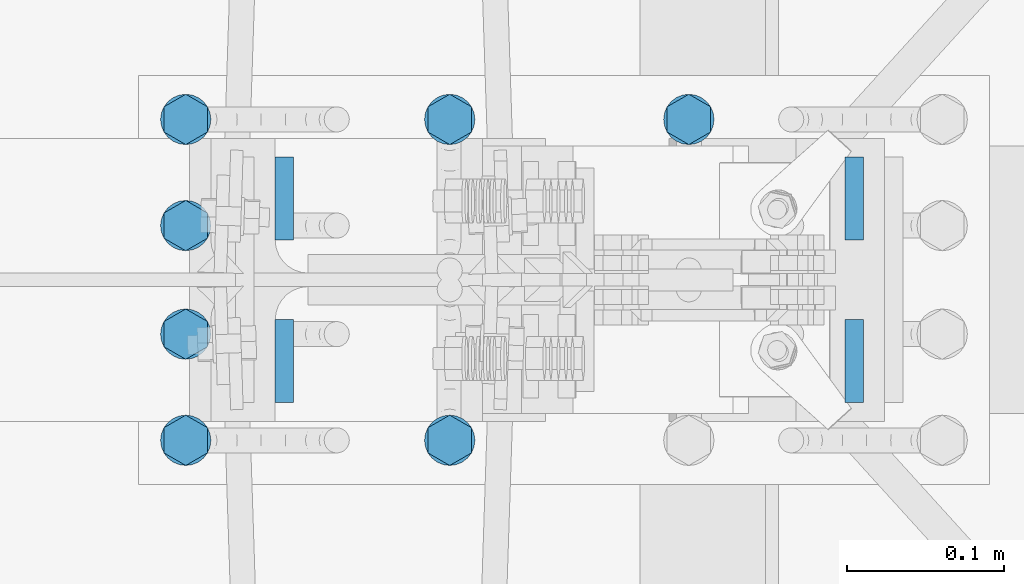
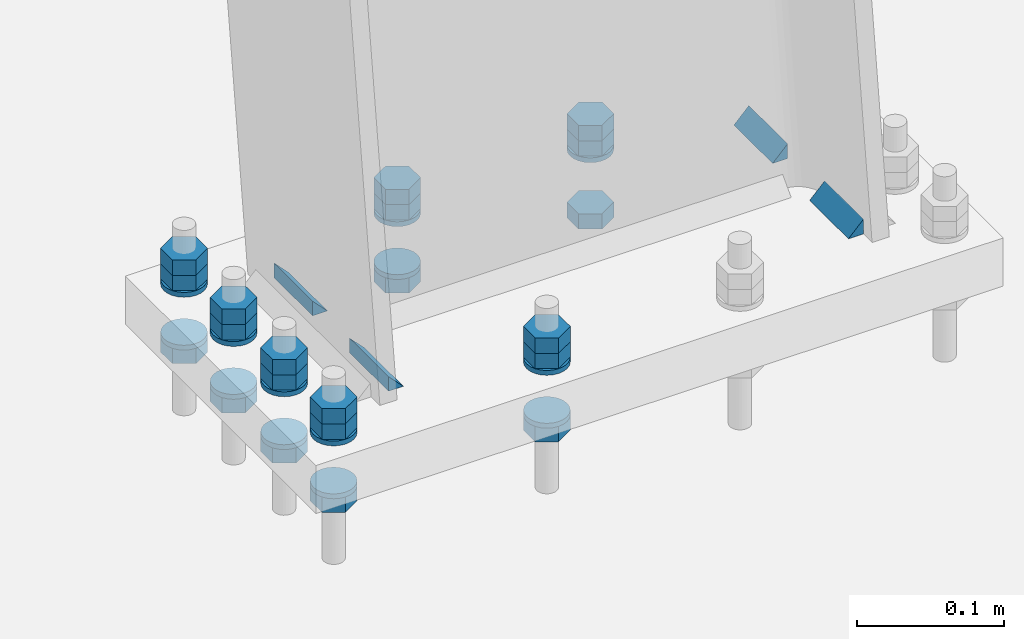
# One storey, part 44 of 72: 34 mechanical fasteners, 8 fasteners.
"""IFC4 building model written with IfcOpenShell, lengths in metres."""

from ifc_helpers import new_model, si_unit, frame, origin_with_axes, place, context, project, spatial, polyline, outline, extrude, type_object, element, save


model = new_model("IFC4")

# Units and contexts
model_context = context("Model", 3, precision=1e-05, world=origin_with_axes())
ifc_project = project(units=[si_unit("LENGTHUNIT", "METRE"), si_unit("AREAUNIT", "SQUARE_METRE"), si_unit("VOLUMEUNIT", "CUBIC_METRE"), si_unit("MASSUNIT", "GRAM", prefix="KILO"), si_unit("TIMEUNIT", "SECOND"), si_unit("PLANEANGLEUNIT", "RADIAN"), si_unit("SOLIDANGLEUNIT", "STERADIAN"), si_unit("THERMODYNAMICTEMPERATUREUNIT", "DEGREE_CELSIUS")], contexts=[model_context])

# Site, building, storey
placement_1 = place(None, origin_with_axes())
site = spatial("IfcSite", under=ifc_project, at=placement_1, Name="Italia", CompositionType="ELEMENT")
building = spatial("IfcBuilding", under=site, at=placement_1, Name="Pensilina", CompositionType="ELEMENT")
storey = spatial("IfcBuildingStorey", under=building, at=placement_1, Name="Storey 0", CompositionType="ELEMENT", Elevation=0.0)

# Fasteners
fastener_type_1 = type_object("IfcFastenerType", Name="Collegamento 0003_-198", PredefinedType="WELD")
placement_2 = place(placement_1, origin_with_axes())
fastener_1_placement = place(placement_2, origin_with_axes())
element("IfcFastener", 1, at=fastener_1_placement, inside=storey, type_object=fastener_type_1, Name="Collegamento 0003_-198", context=model_context, shape_type="SweptSolid", body=[
    extrude(outline(polyline([(0.0, 0.0, 0.0), (0.0118082, 0.0121734, 0.0), (0.0118082, 0.0, 0.0), (0.0, 0.0, 0.0)])), frame((1.10723, 10.5347, 0.103658), z_axis=(0.0, -1.0, 0.0), x_axis=(1.0, 0.0, 0.0)), (0.0, 0.0, 1.0), 0.0528002),
])
fastener_type_2 = type_object("IfcFastenerType", Name="Collegamento 0003_-198", PredefinedType="WELD")
fastener_2_placement = place(placement_2, origin_with_axes())
element("IfcFastener", 2, at=fastener_2_placement, inside=storey, type_object=fastener_type_2, Name="Collegamento 0003_-198", context=model_context, shape_type="SweptSolid", body=[
    extrude(outline(polyline([(0.0, 0.0, 0.0), (0.0118082, 0.0121734, 0.0), (0.0118082, 0.0, 0.0), (0.0, 0.0, 0.0)])), frame((0.756865, 10.4819, 0.103658), z_axis=(0.0, 1.0, 0.0), x_axis=(-1.0, 0.0, 0.0)), (0.0, 0.0, 1.0), 0.0528002),
])
fastener_type_3 = type_object("IfcFastenerType", Name="Collegamento 0003_-198", PredefinedType="WELD")
fastener_3_placement = place(placement_2, origin_with_axes())
element("IfcFastener", 3, at=fastener_3_placement, inside=storey, type_object=fastener_type_3, Name="Collegamento 0003_-198", context=model_context, shape_type="SweptSolid", body=[
    extrude(outline(polyline([(0.0, 0.0, 0.0), (0.0118082, 0.0121734, 0.0), (0.0118082, 0.0, 0.0), (0.0, 0.0, 0.0)])), frame((0.756865, 10.5853, 0.103658), z_axis=(0.0, 1.0, 0.0), x_axis=(-1.0, 0.0, 0.0)), (0.0, 0.0, 1.0), 0.0528002),
])
fastener_type_4 = type_object("IfcFastenerType", Name="Collegamento 0003_-198", PredefinedType="WELD")
fastener_4_placement = place(placement_2, origin_with_axes())
element("IfcFastener", 4, at=fastener_4_placement, inside=storey, type_object=fastener_type_4, Name="Collegamento 0003_-198", context=model_context, shape_type="SweptSolid", body=[
    extrude(outline(polyline([(0.0, 0.0, 0.0), (0.0118082, 0.0121734, 0.0), (0.0118082, 0.0, 0.0), (0.0, 0.0, 0.0)])), frame((1.10723, 10.6381, 0.103658), z_axis=(0.0, -1.0, 0.0), x_axis=(1.0, 0.0, 0.0)), (0.0, 0.0, 1.0), 0.0528002),
])
fastener_type_5 = type_object("IfcFastenerType", Name="Collegamento 0003_-198", PredefinedType="WELD")
fastener_5_placement = place(placement_2, origin_with_axes())
element("IfcFastener", 5, at=fastener_5_placement, inside=storey, type_object=fastener_type_5, Name="Collegamento 0003_-198", context=model_context, shape_type="SweptSolid", body=[
    extrude(outline(polyline([(0.0, 0.0, 0.0), (0.0118082, 0.0121734, 0.0), (0.0118082, 0.0, 0.0), (0.0, 0.0, 0.0)])), frame((1.10723, 10.5347, 0.103658), z_axis=(0.0, -1.0, 0.0), x_axis=(1.0, 0.0, 0.0)), (0.0, 0.0, 1.0), 0.0528002),
])
fastener_type_6 = type_object("IfcFastenerType", Name="Collegamento 0003_-198", PredefinedType="WELD")
fastener_6_placement = place(placement_2, origin_with_axes())
element("IfcFastener", 6, at=fastener_6_placement, inside=storey, type_object=fastener_type_6, Name="Collegamento 0003_-198", context=model_context, shape_type="SweptSolid", body=[
    extrude(outline(polyline([(0.0, 0.0, 0.0), (0.0118082, 0.0121734, 0.0), (0.0118082, 0.0, 0.0), (0.0, 0.0, 0.0)])), frame((0.756865, 10.4819, 0.103658), z_axis=(0.0, 1.0, 0.0), x_axis=(-1.0, 0.0, 0.0)), (0.0, 0.0, 1.0), 0.0528002),
])
fastener_type_7 = type_object("IfcFastenerType", Name="Collegamento 0003_-198", PredefinedType="WELD")
fastener_7_placement = place(placement_2, origin_with_axes())
element("IfcFastener", 7, at=fastener_7_placement, inside=storey, type_object=fastener_type_7, Name="Collegamento 0003_-198", context=model_context, shape_type="SweptSolid", body=[
    extrude(outline(polyline([(0.0, 0.0, 0.0), (0.0118082, 0.0121734, 0.0), (0.0118082, 0.0, 0.0), (0.0, 0.0, 0.0)])), frame((0.756865, 10.5853, 0.103658), z_axis=(0.0, 1.0, 0.0), x_axis=(-1.0, 0.0, 0.0)), (0.0, 0.0, 1.0), 0.0528002),
])
fastener_type_8 = type_object("IfcFastenerType", Name="Collegamento 0003_-198", PredefinedType="WELD")
fastener_8_placement = place(placement_2, origin_with_axes())
element("IfcFastener", 8, at=fastener_8_placement, inside=storey, type_object=fastener_type_8, Name="Collegamento 0003_-198", context=model_context, shape_type="SweptSolid", body=[
    extrude(outline(polyline([(0.0, 0.0, 0.0), (0.0118082, 0.0121734, 0.0), (0.0118082, 0.0, 0.0), (0.0, 0.0, 0.0)])), frame((1.10723, 10.6381, 0.103658), z_axis=(0.0, -1.0, 0.0), x_axis=(1.0, 0.0, 0.0)), (0.0, 0.0, 1.0), 0.0528002),
])

# Mechanical fasteners
mechanical_fastener_type_1 = type_object("IfcMechanicalFastenerType", Name="Collegamento 0003_-198", PredefinedType="BOLT")
mechanical_fastener_1_placement = place(placement_2, origin_with_axes())
element("IfcMechanicalFastener", 9, at=mechanical_fastener_1_placement, inside=storey, type_object=mechanical_fastener_type_1, Name="Collegamento 0003_-198", NominalDiameter=0.0159997, context=model_context, shape_type="SweptSolid", body=[
    extrude(outline(polyline([(0.0, 0.0, 0.0), (0.0159998, 0.0, 0.0), (0.0240002, -0.0138564, 0.0), (0.0159998, -0.0277128, 0.0), (0.0, -0.0277128, 0.0), (-0.00799942, -0.0138564, 0.0), (0.0, 0.0, 0.0)])), frame((0.674373, 10.654, 0.107708), z_axis=(0.0, 0.0, 1.0), x_axis=(0.0, 1.0, 0.0)), (0.0, 0.0, 1.0), 0.0128),
])
mechanical_fastener_type_2 = type_object("IfcMechanicalFastenerType", Name="Collegamento 0003_-198", PredefinedType="BOLT")
mechanical_fastener_2_placement = place(placement_2, origin_with_axes())
element("IfcMechanicalFastener", 10, at=mechanical_fastener_2_placement, inside=storey, type_object=mechanical_fastener_type_2, Name="Collegamento 0003_-198", NominalDiameter=0.0159997, context=model_context, shape_type="SweptSolid", body=[
    extrude(outline(polyline([(0.0, 0.0, 0.0), (0.0159998, 0.0, 0.0), (0.0240002, -0.0138564, 0.0), (0.0159998, -0.0277128, 0.0), (0.0, -0.0277128, 0.0), (-0.00799942, -0.0138564, 0.0), (0.0, 0.0, 0.0)])), frame((0.674373, 10.654, 0.120508), z_axis=(0.0, 0.0, 1.0), x_axis=(0.0, 1.0, 0.0)), (0.0, 0.0, 1.0), 0.0128),
])
mechanical_fastener_type_3 = type_object("IfcMechanicalFastenerType", Name="Collegamento 0003_-198", PredefinedType="BOLT")
mechanical_fastener_3_placement = place(placement_2, origin_with_axes())
element("IfcMechanicalFastener", 11, at=mechanical_fastener_3_placement, inside=storey, type_object=mechanical_fastener_type_3, Name="Collegamento 0003_-198", NominalDiameter=0.0159997, context=model_context, shape_type="SweptSolid", body=[
    extrude(outline(polyline([(0.0, 0.0, 0.0), (0.0159998, 0.0, 0.0), (0.0240002, -0.0138564, 0.0), (0.0159998, -0.0277128, 0.0), (0.0, -0.0277128, 0.0), (-0.00799942, -0.0138564, 0.0), (0.0, 0.0, 0.0)])), frame((0.674373, 10.654, 0.0469081), z_axis=(0.0, 0.0, 1.0), x_axis=(0.0, 1.0, 0.0)), (0.0, 0.0, 1.0), 0.0128),
])
mechanical_fastener_type_4 = type_object("IfcMechanicalFastenerType", Name="Collegamento 0003_-198", PredefinedType="BOLT")
mechanical_fastener_4_placement = place(placement_2, origin_with_axes())
element("IfcMechanicalFastener", 12, at=mechanical_fastener_4_placement, inside=storey, type_object=mechanical_fastener_type_4, Name="Collegamento 0003_-198", NominalDiameter=0.032, context=model_context, shape_type="SweptSolid", body=[
    extrude(outline(polyline([(0.0, 0.0, 0.0), (-0.000544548, -0.00414109, 0.0), (-0.00214386, -0.00800002, 0.0), (-0.00468636, -0.0113137, 0.0), (-0.00799942, -0.0138564, 0.0), (-0.0118589, -0.0154548, 0.0), (-0.0159998, -0.016, 0.0), (-0.0201406, -0.0154548, 0.0), (-0.0240002, -0.0138564, 0.0), (-0.0273132, -0.0113137, 0.0), (-0.0298557, -0.00800002, 0.0), (-0.031455, -0.00414109, 0.0), (-0.0319996, 0.0, 0.0), (-0.031455, 0.00414109, 0.0), (-0.0298557, 0.00800002, 0.0), (-0.0273132, 0.0113137, 0.0), (-0.0240002, 0.0138564, 0.0), (-0.0201406, 0.0154548, 0.0), (-0.0159998, 0.016, 0.0), (-0.0118589, 0.0154548, 0.0), (-0.00799942, 0.0138564, 0.0), (-0.00468636, 0.0113137, 0.0), (-0.00214386, 0.00800002, 0.0), (-0.000544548, 0.00414109, 0.0), (0.0, 0.0, 0.0)])), frame((0.68823, 10.678, 0.103708), z_axis=(0.0, 0.0, 1.0), x_axis=(0.0, 1.0, 0.0)), (0.0, 0.0, 1.0), 0.004),
])
mechanical_fastener_type_5 = type_object("IfcMechanicalFastenerType", Name="Collegamento 0003_-198", PredefinedType="BOLT")
mechanical_fastener_5_placement = place(placement_2, origin_with_axes())
element("IfcMechanicalFastener", 13, at=mechanical_fastener_5_placement, inside=storey, type_object=mechanical_fastener_type_5, Name="Collegamento 0003_-198", NominalDiameter=0.032, context=model_context, shape_type="SweptSolid", body=[
    extrude(outline(polyline([(0.0, 0.0, 0.0), (-0.000544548, -0.00414109, 0.0), (-0.00214386, -0.00800002, 0.0), (-0.00468636, -0.0113137, 0.0), (-0.00799942, -0.0138564, 0.0), (-0.0118589, -0.0154548, 0.0), (-0.0159998, -0.016, 0.0), (-0.0201406, -0.0154548, 0.0), (-0.0240002, -0.0138564, 0.0), (-0.0273132, -0.0113137, 0.0), (-0.0298557, -0.00800002, 0.0), (-0.031455, -0.00414109, 0.0), (-0.0319996, 0.0, 0.0), (-0.031455, 0.00414109, 0.0), (-0.0298557, 0.00800002, 0.0), (-0.0273132, 0.0113137, 0.0), (-0.0240002, 0.0138564, 0.0), (-0.0201406, 0.0154548, 0.0), (-0.0159998, 0.016, 0.0), (-0.0118589, 0.0154548, 0.0), (-0.00799942, 0.0138564, 0.0), (-0.00468636, 0.0113137, 0.0), (-0.00214386, 0.00800002, 0.0), (-0.000544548, 0.00414109, 0.0), (0.0, 0.0, 0.0)])), frame((0.68823, 10.678, 0.0597081), z_axis=(0.0, 0.0, 1.0), x_axis=(0.0, 1.0, 0.0)), (0.0, 0.0, 1.0), 0.004),
])
mechanical_fastener_type_6 = type_object("IfcMechanicalFastenerType", Name="Collegamento 0003_-198", PredefinedType="BOLT")
mechanical_fastener_6_placement = place(placement_2, origin_with_axes())
element("IfcMechanicalFastener", 14, at=mechanical_fastener_6_placement, inside=storey, type_object=mechanical_fastener_type_6, Name="Collegamento 0003_-198", NominalDiameter=0.0159997, context=model_context, shape_type="SweptSolid", body=[
    extrude(outline(polyline([(0.0, 0.0, 0.0), (0.0159998, 0.0, 0.0), (0.0240002, -0.0138564, 0.0), (0.0159998, -0.0277128, 0.0), (0.0, -0.0277128, 0.0), (-0.00799942, -0.0138564, 0.0), (0.0, 0.0, 0.0)])), frame((0.674373, 10.5865, 0.107708), z_axis=(0.0, 0.0, 1.0), x_axis=(0.0, 1.0, 0.0)), (0.0, 0.0, 1.0), 0.0128),
])
mechanical_fastener_type_7 = type_object("IfcMechanicalFastenerType", Name="Collegamento 0003_-198", PredefinedType="BOLT")
mechanical_fastener_7_placement = place(placement_2, origin_with_axes())
element("IfcMechanicalFastener", 15, at=mechanical_fastener_7_placement, inside=storey, type_object=mechanical_fastener_type_7, Name="Collegamento 0003_-198", NominalDiameter=0.0159997, context=model_context, shape_type="SweptSolid", body=[
    extrude(outline(polyline([(0.0, 0.0, 0.0), (0.0159998, 0.0, 0.0), (0.0240002, -0.0138564, 0.0), (0.0159998, -0.0277128, 0.0), (0.0, -0.0277128, 0.0), (-0.00799942, -0.0138564, 0.0), (0.0, 0.0, 0.0)])), frame((0.674373, 10.5865, 0.120508), z_axis=(0.0, 0.0, 1.0), x_axis=(0.0, 1.0, 0.0)), (0.0, 0.0, 1.0), 0.0128),
])
mechanical_fastener_type_8 = type_object("IfcMechanicalFastenerType", Name="Collegamento 0003_-198", PredefinedType="BOLT")
mechanical_fastener_8_placement = place(placement_2, origin_with_axes())
element("IfcMechanicalFastener", 16, at=mechanical_fastener_8_placement, inside=storey, type_object=mechanical_fastener_type_8, Name="Collegamento 0003_-198", NominalDiameter=0.0159997, context=model_context, shape_type="SweptSolid", body=[
    extrude(outline(polyline([(0.0, 0.0, 0.0), (0.0159998, 0.0, 0.0), (0.0240002, -0.0138564, 0.0), (0.0159998, -0.0277128, 0.0), (0.0, -0.0277128, 0.0), (-0.00799942, -0.0138564, 0.0), (0.0, 0.0, 0.0)])), frame((0.674373, 10.5865, 0.0469081), z_axis=(0.0, 0.0, 1.0), x_axis=(0.0, 1.0, 0.0)), (0.0, 0.0, 1.0), 0.0128),
])
mechanical_fastener_type_9 = type_object("IfcMechanicalFastenerType", Name="Collegamento 0003_-198", PredefinedType="BOLT")
mechanical_fastener_9_placement = place(placement_2, origin_with_axes())
element("IfcMechanicalFastener", 17, at=mechanical_fastener_9_placement, inside=storey, type_object=mechanical_fastener_type_9, Name="Collegamento 0003_-198", NominalDiameter=0.032, context=model_context, shape_type="SweptSolid", body=[
    extrude(outline(polyline([(0.0, 0.0, 0.0), (-0.000544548, -0.00414109, 0.0), (-0.00214386, -0.00800002, 0.0), (-0.00468636, -0.0113137, 0.0), (-0.00799942, -0.0138564, 0.0), (-0.0118589, -0.0154548, 0.0), (-0.0159998, -0.016, 0.0), (-0.0201406, -0.0154548, 0.0), (-0.0240002, -0.0138564, 0.0), (-0.0273132, -0.0113137, 0.0), (-0.0298557, -0.00800002, 0.0), (-0.031455, -0.00414109, 0.0), (-0.0319996, 0.0, 0.0), (-0.031455, 0.00414109, 0.0), (-0.0298557, 0.00800002, 0.0), (-0.0273132, 0.0113137, 0.0), (-0.0240002, 0.0138564, 0.0), (-0.0201406, 0.0154548, 0.0), (-0.0159998, 0.016, 0.0), (-0.0118589, 0.0154548, 0.0), (-0.00799942, 0.0138564, 0.0), (-0.00468636, 0.0113137, 0.0), (-0.00214386, 0.00800002, 0.0), (-0.000544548, 0.00414109, 0.0), (0.0, 0.0, 0.0)])), frame((0.68823, 10.6105, 0.103708), z_axis=(0.0, 0.0, 1.0), x_axis=(0.0, 1.0, 0.0)), (0.0, 0.0, 1.0), 0.004),
])
mechanical_fastener_type_10 = type_object("IfcMechanicalFastenerType", Name="Collegamento 0003_-198", PredefinedType="BOLT")
mechanical_fastener_10_placement = place(placement_2, origin_with_axes())
element("IfcMechanicalFastener", 18, at=mechanical_fastener_10_placement, inside=storey, type_object=mechanical_fastener_type_10, Name="Collegamento 0003_-198", NominalDiameter=0.032, context=model_context, shape_type="SweptSolid", body=[
    extrude(outline(polyline([(0.0, 0.0, 0.0), (-0.000544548, -0.00414109, 0.0), (-0.00214386, -0.00800002, 0.0), (-0.00468636, -0.0113137, 0.0), (-0.00799942, -0.0138564, 0.0), (-0.0118589, -0.0154548, 0.0), (-0.0159998, -0.016, 0.0), (-0.0201406, -0.0154548, 0.0), (-0.0240002, -0.0138564, 0.0), (-0.0273132, -0.0113137, 0.0), (-0.0298557, -0.00800002, 0.0), (-0.031455, -0.00414109, 0.0), (-0.0319996, 0.0, 0.0), (-0.031455, 0.00414109, 0.0), (-0.0298557, 0.00800002, 0.0), (-0.0273132, 0.0113137, 0.0), (-0.0240002, 0.0138564, 0.0), (-0.0201406, 0.0154548, 0.0), (-0.0159998, 0.016, 0.0), (-0.0118589, 0.0154548, 0.0), (-0.00799942, 0.0138564, 0.0), (-0.00468636, 0.0113137, 0.0), (-0.00214386, 0.00800002, 0.0), (-0.000544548, 0.00414109, 0.0), (0.0, 0.0, 0.0)])), frame((0.68823, 10.6105, 0.0597081), z_axis=(0.0, 0.0, 1.0), x_axis=(0.0, 1.0, 0.0)), (0.0, 0.0, 1.0), 0.004),
])
mechanical_fastener_type_11 = type_object("IfcMechanicalFastenerType", Name="Collegamento 0003_-198", PredefinedType="BOLT")
mechanical_fastener_11_placement = place(placement_2, origin_with_axes())
element("IfcMechanicalFastener", 19, at=mechanical_fastener_11_placement, inside=storey, type_object=mechanical_fastener_type_11, Name="Collegamento 0003_-198", NominalDiameter=0.0159997, context=model_context, shape_type="SweptSolid", body=[
    extrude(outline(polyline([(0.0, 0.0, 0.0), (0.0159998, 0.0, 0.0), (0.0239992, -0.0138564, 0.0), (0.0159998, -0.0277128, 0.0), (0.0, -0.0277128, 0.0), (-0.00800037, -0.0138564, 0.0), (0.0, 0.0, 0.0)])), frame((0.674373, 10.5175, 0.107708), z_axis=(0.0, 0.0, 1.0), x_axis=(0.0, 1.0, 0.0)), (0.0, 0.0, 1.0), 0.0128),
])
mechanical_fastener_type_12 = type_object("IfcMechanicalFastenerType", Name="Collegamento 0003_-198", PredefinedType="BOLT")
mechanical_fastener_12_placement = place(placement_2, origin_with_axes())
element("IfcMechanicalFastener", 20, at=mechanical_fastener_12_placement, inside=storey, type_object=mechanical_fastener_type_12, Name="Collegamento 0003_-198", NominalDiameter=0.0159997, context=model_context, shape_type="SweptSolid", body=[
    extrude(outline(polyline([(0.0, 0.0, 0.0), (0.0159998, 0.0, 0.0), (0.0239992, -0.0138564, 0.0), (0.0159998, -0.0277128, 0.0), (0.0, -0.0277128, 0.0), (-0.00800037, -0.0138564, 0.0), (0.0, 0.0, 0.0)])), frame((0.674373, 10.5175, 0.120508), z_axis=(0.0, 0.0, 1.0), x_axis=(0.0, 1.0, 0.0)), (0.0, 0.0, 1.0), 0.0128),
])
mechanical_fastener_type_13 = type_object("IfcMechanicalFastenerType", Name="Collegamento 0003_-198", PredefinedType="BOLT")
mechanical_fastener_13_placement = place(placement_2, origin_with_axes())
element("IfcMechanicalFastener", 21, at=mechanical_fastener_13_placement, inside=storey, type_object=mechanical_fastener_type_13, Name="Collegamento 0003_-198", NominalDiameter=0.0159997, context=model_context, shape_type="SweptSolid", body=[
    extrude(outline(polyline([(0.0, 0.0, 0.0), (0.0159998, 0.0, 0.0), (0.0239992, -0.0138564, 0.0), (0.0159998, -0.0277128, 0.0), (0.0, -0.0277128, 0.0), (-0.00800037, -0.0138564, 0.0), (0.0, 0.0, 0.0)])), frame((0.674373, 10.5175, 0.0469081), z_axis=(0.0, 0.0, 1.0), x_axis=(0.0, 1.0, 0.0)), (0.0, 0.0, 1.0), 0.0128),
])
mechanical_fastener_type_14 = type_object("IfcMechanicalFastenerType", Name="Collegamento 0003_-198", PredefinedType="BOLT")
mechanical_fastener_14_placement = place(placement_2, origin_with_axes())
element("IfcMechanicalFastener", 22, at=mechanical_fastener_14_placement, inside=storey, type_object=mechanical_fastener_type_14, Name="Collegamento 0003_-198", NominalDiameter=0.032, context=model_context, shape_type="SweptSolid", body=[
    extrude(outline(polyline([(0.0, 0.0, 0.0), (-0.000544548, -0.00414109, 0.0), (-0.00214386, -0.00800002, 0.0), (-0.00468636, -0.0113137, 0.0), (-0.00799942, -0.0138564, 0.0), (-0.0118589, -0.0154548, 0.0), (-0.0159998, -0.016, 0.0), (-0.0201406, -0.0154548, 0.0), (-0.0240002, -0.0138564, 0.0), (-0.0273132, -0.0113137, 0.0), (-0.0298557, -0.00800002, 0.0), (-0.031455, -0.00414109, 0.0), (-0.0319996, 0.0, 0.0), (-0.031455, 0.00414109, 0.0), (-0.0298557, 0.00800002, 0.0), (-0.0273132, 0.0113137, 0.0), (-0.0240002, 0.0138564, 0.0), (-0.0201406, 0.0154548, 0.0), (-0.0159998, 0.016, 0.0), (-0.0118589, 0.0154548, 0.0), (-0.00799942, 0.0138564, 0.0), (-0.00468636, 0.0113137, 0.0), (-0.00214386, 0.00800002, 0.0), (-0.000544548, 0.00414109, 0.0), (0.0, 0.0, 0.0)])), frame((0.68823, 10.5415, 0.103708), z_axis=(0.0, 0.0, 1.0), x_axis=(0.0, 1.0, 0.0)), (0.0, 0.0, 1.0), 0.004),
])
mechanical_fastener_type_15 = type_object("IfcMechanicalFastenerType", Name="Collegamento 0003_-198", PredefinedType="BOLT")
mechanical_fastener_15_placement = place(placement_2, origin_with_axes())
element("IfcMechanicalFastener", 23, at=mechanical_fastener_15_placement, inside=storey, type_object=mechanical_fastener_type_15, Name="Collegamento 0003_-198", NominalDiameter=0.032, context=model_context, shape_type="SweptSolid", body=[
    extrude(outline(polyline([(0.0, 0.0, 0.0), (-0.000544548, -0.00414109, 0.0), (-0.00214386, -0.00800002, 0.0), (-0.00468636, -0.0113137, 0.0), (-0.00799942, -0.0138564, 0.0), (-0.0118589, -0.0154548, 0.0), (-0.0159998, -0.016, 0.0), (-0.0201406, -0.0154548, 0.0), (-0.0240002, -0.0138564, 0.0), (-0.0273132, -0.0113137, 0.0), (-0.0298557, -0.00800002, 0.0), (-0.031455, -0.00414109, 0.0), (-0.0319996, 0.0, 0.0), (-0.031455, 0.00414109, 0.0), (-0.0298557, 0.00800002, 0.0), (-0.0273132, 0.0113137, 0.0), (-0.0240002, 0.0138564, 0.0), (-0.0201406, 0.0154548, 0.0), (-0.0159998, 0.016, 0.0), (-0.0118589, 0.0154548, 0.0), (-0.00799942, 0.0138564, 0.0), (-0.00468636, 0.0113137, 0.0), (-0.00214386, 0.00800002, 0.0), (-0.000544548, 0.00414109, 0.0), (0.0, 0.0, 0.0)])), frame((0.68823, 10.5415, 0.0597081), z_axis=(0.0, 0.0, 1.0), x_axis=(0.0, 1.0, 0.0)), (0.0, 0.0, 1.0), 0.004),
])
mechanical_fastener_type_16 = type_object("IfcMechanicalFastenerType", Name="Collegamento 0003_-198", PredefinedType="BOLT")
mechanical_fastener_16_placement = place(placement_2, origin_with_axes())
element("IfcMechanicalFastener", 24, at=mechanical_fastener_16_placement, inside=storey, type_object=mechanical_fastener_type_16, Name="Collegamento 0003_-198", NominalDiameter=0.0159997, context=model_context, shape_type="SweptSolid", body=[
    extrude(outline(polyline([(0.0, 0.0, 0.0), (0.0159998, 0.0, 0.0), (0.0239992, -0.0138564, 0.0), (0.0159998, -0.0277128, 0.0), (0.0, -0.0277128, 0.0), (-0.00800037, -0.0138564, 0.0), (0.0, 0.0, 0.0)])), frame((0.674373, 10.45, 0.107708), z_axis=(0.0, 0.0, 1.0), x_axis=(0.0, 1.0, 0.0)), (0.0, 0.0, 1.0), 0.0128),
])
mechanical_fastener_type_17 = type_object("IfcMechanicalFastenerType", Name="Collegamento 0003_-198", PredefinedType="BOLT")
mechanical_fastener_17_placement = place(placement_2, origin_with_axes())
element("IfcMechanicalFastener", 25, at=mechanical_fastener_17_placement, inside=storey, type_object=mechanical_fastener_type_17, Name="Collegamento 0003_-198", NominalDiameter=0.0159997, context=model_context, shape_type="SweptSolid", body=[
    extrude(outline(polyline([(0.0, 0.0, 0.0), (0.0159998, 0.0, 0.0), (0.0239992, -0.0138564, 0.0), (0.0159998, -0.0277128, 0.0), (0.0, -0.0277128, 0.0), (-0.00800037, -0.0138564, 0.0), (0.0, 0.0, 0.0)])), frame((0.674373, 10.45, 0.120508), z_axis=(0.0, 0.0, 1.0), x_axis=(0.0, 1.0, 0.0)), (0.0, 0.0, 1.0), 0.0128),
])
mechanical_fastener_type_18 = type_object("IfcMechanicalFastenerType", Name="Collegamento 0003_-198", PredefinedType="BOLT")
mechanical_fastener_18_placement = place(placement_2, origin_with_axes())
element("IfcMechanicalFastener", 26, at=mechanical_fastener_18_placement, inside=storey, type_object=mechanical_fastener_type_18, Name="Collegamento 0003_-198", NominalDiameter=0.0159997, context=model_context, shape_type="SweptSolid", body=[
    extrude(outline(polyline([(0.0, 0.0, 0.0), (0.0159998, 0.0, 0.0), (0.0239992, -0.0138564, 0.0), (0.0159998, -0.0277128, 0.0), (0.0, -0.0277128, 0.0), (-0.00800037, -0.0138564, 0.0), (0.0, 0.0, 0.0)])), frame((0.674373, 10.45, 0.0469081), z_axis=(0.0, 0.0, 1.0), x_axis=(0.0, 1.0, 0.0)), (0.0, 0.0, 1.0), 0.0128),
])
mechanical_fastener_type_19 = type_object("IfcMechanicalFastenerType", Name="Collegamento 0003_-198", PredefinedType="BOLT")
mechanical_fastener_19_placement = place(placement_2, origin_with_axes())
element("IfcMechanicalFastener", 27, at=mechanical_fastener_19_placement, inside=storey, type_object=mechanical_fastener_type_19, Name="Collegamento 0003_-198", NominalDiameter=0.032, context=model_context, shape_type="SweptSolid", body=[
    extrude(outline(polyline([(0.0, 0.0, 0.0), (-0.000544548, -0.00414109, 0.0), (-0.00214386, -0.00800002, 0.0), (-0.00468636, -0.0113137, 0.0), (-0.00799942, -0.0138564, 0.0), (-0.0118589, -0.0154548, 0.0), (-0.0159998, -0.016, 0.0), (-0.0201406, -0.0154548, 0.0), (-0.0240002, -0.0138564, 0.0), (-0.0273132, -0.0113137, 0.0), (-0.0298557, -0.00800002, 0.0), (-0.031455, -0.00414109, 0.0), (-0.0319996, 0.0, 0.0), (-0.031455, 0.00414109, 0.0), (-0.0298557, 0.00800002, 0.0), (-0.0273132, 0.0113137, 0.0), (-0.0240002, 0.0138564, 0.0), (-0.0201406, 0.0154548, 0.0), (-0.0159998, 0.016, 0.0), (-0.0118589, 0.0154548, 0.0), (-0.00799942, 0.0138564, 0.0), (-0.00468636, 0.0113137, 0.0), (-0.00214386, 0.00800002, 0.0), (-0.000544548, 0.00414109, 0.0), (0.0, 0.0, 0.0)])), frame((0.68823, 10.474, 0.103708), z_axis=(0.0, 0.0, 1.0), x_axis=(0.0, 1.0, 0.0)), (0.0, 0.0, 1.0), 0.004),
])
mechanical_fastener_type_20 = type_object("IfcMechanicalFastenerType", Name="Collegamento 0003_-198", PredefinedType="BOLT")
mechanical_fastener_20_placement = place(placement_2, origin_with_axes())
element("IfcMechanicalFastener", 28, at=mechanical_fastener_20_placement, inside=storey, type_object=mechanical_fastener_type_20, Name="Collegamento 0003_-198", NominalDiameter=0.032, context=model_context, shape_type="SweptSolid", body=[
    extrude(outline(polyline([(0.0, 0.0, 0.0), (-0.000544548, -0.00414109, 0.0), (-0.00214386, -0.00800002, 0.0), (-0.00468636, -0.0113137, 0.0), (-0.00799942, -0.0138564, 0.0), (-0.0118589, -0.0154548, 0.0), (-0.0159998, -0.016, 0.0), (-0.0201406, -0.0154548, 0.0), (-0.0240002, -0.0138564, 0.0), (-0.0273132, -0.0113137, 0.0), (-0.0298557, -0.00800002, 0.0), (-0.031455, -0.00414109, 0.0), (-0.0319996, 0.0, 0.0), (-0.031455, 0.00414109, 0.0), (-0.0298557, 0.00800002, 0.0), (-0.0273132, 0.0113137, 0.0), (-0.0240002, 0.0138564, 0.0), (-0.0201406, 0.0154548, 0.0), (-0.0159998, 0.016, 0.0), (-0.0118589, 0.0154548, 0.0), (-0.00799942, 0.0138564, 0.0), (-0.00468636, 0.0113137, 0.0), (-0.00214386, 0.00800002, 0.0), (-0.000544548, 0.00414109, 0.0), (0.0, 0.0, 0.0)])), frame((0.68823, 10.474, 0.0597081), z_axis=(0.0, 0.0, 1.0), x_axis=(0.0, 1.0, 0.0)), (0.0, 0.0, 1.0), 0.004),
])
mechanical_fastener_type_21 = type_object("IfcMechanicalFastenerType", Name="Collegamento 0003_-198", PredefinedType="BOLT")
mechanical_fastener_21_placement = place(placement_2, origin_with_axes())
element("IfcMechanicalFastener", 29, at=mechanical_fastener_21_placement, inside=storey, type_object=mechanical_fastener_type_21, Name="Collegamento 0003_-198", NominalDiameter=0.0159997, context=model_context, shape_type="SweptSolid", body=[
    extrude(outline(polyline([(0.0, 0.0, 0.0), (0.0159998, 0.0, 0.0), (0.0240002, -0.0138564, 0.0), (0.0159998, -0.0277128, 0.0), (0.0, -0.0277128, 0.0), (-0.00799942, -0.0138564, 0.0), (0.0, 0.0, 0.0)])), frame((0.84219, 10.654, 0.107708), z_axis=(0.0, 0.0, 1.0), x_axis=(0.0, 1.0, 0.0)), (0.0, 0.0, 1.0), 0.0128),
])
mechanical_fastener_type_22 = type_object("IfcMechanicalFastenerType", Name="Collegamento 0003_-198", PredefinedType="BOLT")
mechanical_fastener_22_placement = place(placement_2, origin_with_axes())
element("IfcMechanicalFastener", 30, at=mechanical_fastener_22_placement, inside=storey, type_object=mechanical_fastener_type_22, Name="Collegamento 0003_-198", NominalDiameter=0.0159997, context=model_context, shape_type="SweptSolid", body=[
    extrude(outline(polyline([(0.0, 0.0, 0.0), (0.0159998, 0.0, 0.0), (0.0240002, -0.0138564, 0.0), (0.0159998, -0.0277128, 0.0), (0.0, -0.0277128, 0.0), (-0.00799942, -0.0138564, 0.0), (0.0, 0.0, 0.0)])), frame((0.84219, 10.654, 0.120508), z_axis=(0.0, 0.0, 1.0), x_axis=(0.0, 1.0, 0.0)), (0.0, 0.0, 1.0), 0.0128),
])
mechanical_fastener_type_23 = type_object("IfcMechanicalFastenerType", Name="Collegamento 0003_-198", PredefinedType="BOLT")
mechanical_fastener_23_placement = place(placement_2, origin_with_axes())
element("IfcMechanicalFastener", 31, at=mechanical_fastener_23_placement, inside=storey, type_object=mechanical_fastener_type_23, Name="Collegamento 0003_-198", NominalDiameter=0.0159997, context=model_context, shape_type="SweptSolid", body=[
    extrude(outline(polyline([(0.0, 0.0, 0.0), (0.0159998, 0.0, 0.0), (0.0240002, -0.0138564, 0.0), (0.0159998, -0.0277128, 0.0), (0.0, -0.0277128, 0.0), (-0.00799942, -0.0138564, 0.0), (0.0, 0.0, 0.0)])), frame((0.84219, 10.654, 0.0469081), z_axis=(0.0, 0.0, 1.0), x_axis=(0.0, 1.0, 0.0)), (0.0, 0.0, 1.0), 0.0128),
])
mechanical_fastener_type_24 = type_object("IfcMechanicalFastenerType", Name="Collegamento 0003_-198", PredefinedType="BOLT")
mechanical_fastener_24_placement = place(placement_2, origin_with_axes())
element("IfcMechanicalFastener", 32, at=mechanical_fastener_24_placement, inside=storey, type_object=mechanical_fastener_type_24, Name="Collegamento 0003_-198", NominalDiameter=0.032, context=model_context, shape_type="SweptSolid", body=[
    extrude(outline(polyline([(0.0, 0.0, 0.0), (-0.000544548, -0.00414109, 0.0), (-0.00214386, -0.00800002, 0.0), (-0.00468636, -0.0113137, 0.0), (-0.00799942, -0.0138564, 0.0), (-0.0118589, -0.0154548, 0.0), (-0.0159998, -0.016, 0.0), (-0.0201406, -0.0154548, 0.0), (-0.0240002, -0.0138564, 0.0), (-0.0273132, -0.0113137, 0.0), (-0.0298557, -0.00800002, 0.0), (-0.031455, -0.00414109, 0.0), (-0.0319996, 0.0, 0.0), (-0.031455, 0.00414109, 0.0), (-0.0298557, 0.00800002, 0.0), (-0.0273132, 0.0113137, 0.0), (-0.0240002, 0.0138564, 0.0), (-0.0201406, 0.0154548, 0.0), (-0.0159998, 0.016, 0.0), (-0.0118589, 0.0154548, 0.0), (-0.00799942, 0.0138564, 0.0), (-0.00468636, 0.0113137, 0.0), (-0.00214386, 0.00800002, 0.0), (-0.000544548, 0.00414109, 0.0), (0.0, 0.0, 0.0)])), frame((0.856047, 10.678, 0.103708), z_axis=(0.0, 0.0, 1.0), x_axis=(0.0, 1.0, 0.0)), (0.0, 0.0, 1.0), 0.004),
])
mechanical_fastener_type_25 = type_object("IfcMechanicalFastenerType", Name="Collegamento 0003_-198", PredefinedType="BOLT")
mechanical_fastener_25_placement = place(placement_2, origin_with_axes())
element("IfcMechanicalFastener", 33, at=mechanical_fastener_25_placement, inside=storey, type_object=mechanical_fastener_type_25, Name="Collegamento 0003_-198", NominalDiameter=0.032, context=model_context, shape_type="SweptSolid", body=[
    extrude(outline(polyline([(0.0, 0.0, 0.0), (-0.000544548, -0.00414109, 0.0), (-0.00214386, -0.00800002, 0.0), (-0.00468636, -0.0113137, 0.0), (-0.00799942, -0.0138564, 0.0), (-0.0118589, -0.0154548, 0.0), (-0.0159998, -0.016, 0.0), (-0.0201406, -0.0154548, 0.0), (-0.0240002, -0.0138564, 0.0), (-0.0273132, -0.0113137, 0.0), (-0.0298557, -0.00800002, 0.0), (-0.031455, -0.00414109, 0.0), (-0.0319996, 0.0, 0.0), (-0.031455, 0.00414109, 0.0), (-0.0298557, 0.00800002, 0.0), (-0.0273132, 0.0113137, 0.0), (-0.0240002, 0.0138564, 0.0), (-0.0201406, 0.0154548, 0.0), (-0.0159998, 0.016, 0.0), (-0.0118589, 0.0154548, 0.0), (-0.00799942, 0.0138564, 0.0), (-0.00468636, 0.0113137, 0.0), (-0.00214386, 0.00800002, 0.0), (-0.000544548, 0.00414109, 0.0), (0.0, 0.0, 0.0)])), frame((0.856047, 10.678, 0.0597081), z_axis=(0.0, 0.0, 1.0), x_axis=(0.0, 1.0, 0.0)), (0.0, 0.0, 1.0), 0.004),
])
mechanical_fastener_type_26 = type_object("IfcMechanicalFastenerType", Name="Collegamento 0003_-198", PredefinedType="BOLT")
mechanical_fastener_26_placement = place(placement_2, origin_with_axes())
element("IfcMechanicalFastener", 34, at=mechanical_fastener_26_placement, inside=storey, type_object=mechanical_fastener_type_26, Name="Collegamento 0003_-198", NominalDiameter=0.0159997, context=model_context, shape_type="SweptSolid", body=[
    extrude(outline(polyline([(0.0, 0.0, 0.0), (0.0159998, 0.0, 0.0), (0.0239992, -0.0138564, 0.0), (0.0159998, -0.0277128, 0.0), (0.0, -0.0277128, 0.0), (-0.00800037, -0.0138564, 0.0), (0.0, 0.0, 0.0)])), frame((0.84219, 10.45, 0.107708), z_axis=(0.0, 0.0, 1.0), x_axis=(0.0, 1.0, 0.0)), (0.0, 0.0, 1.0), 0.0128),
])
mechanical_fastener_type_27 = type_object("IfcMechanicalFastenerType", Name="Collegamento 0003_-198", PredefinedType="BOLT")
mechanical_fastener_27_placement = place(placement_2, origin_with_axes())
element("IfcMechanicalFastener", 35, at=mechanical_fastener_27_placement, inside=storey, type_object=mechanical_fastener_type_27, Name="Collegamento 0003_-198", NominalDiameter=0.0159997, context=model_context, shape_type="SweptSolid", body=[
    extrude(outline(polyline([(0.0, 0.0, 0.0), (0.0159998, 0.0, 0.0), (0.0239992, -0.0138564, 0.0), (0.0159998, -0.0277128, 0.0), (0.0, -0.0277128, 0.0), (-0.00800037, -0.0138564, 0.0), (0.0, 0.0, 0.0)])), frame((0.84219, 10.45, 0.120508), z_axis=(0.0, 0.0, 1.0), x_axis=(0.0, 1.0, 0.0)), (0.0, 0.0, 1.0), 0.0128),
])
mechanical_fastener_type_28 = type_object("IfcMechanicalFastenerType", Name="Collegamento 0003_-198", PredefinedType="BOLT")
mechanical_fastener_28_placement = place(placement_2, origin_with_axes())
element("IfcMechanicalFastener", 36, at=mechanical_fastener_28_placement, inside=storey, type_object=mechanical_fastener_type_28, Name="Collegamento 0003_-198", NominalDiameter=0.0159997, context=model_context, shape_type="SweptSolid", body=[
    extrude(outline(polyline([(0.0, 0.0, 0.0), (0.0159998, 0.0, 0.0), (0.0239992, -0.0138564, 0.0), (0.0159998, -0.0277128, 0.0), (0.0, -0.0277128, 0.0), (-0.00800037, -0.0138564, 0.0), (0.0, 0.0, 0.0)])), frame((0.84219, 10.45, 0.0469081), z_axis=(0.0, 0.0, 1.0), x_axis=(0.0, 1.0, 0.0)), (0.0, 0.0, 1.0), 0.0128),
])
mechanical_fastener_type_29 = type_object("IfcMechanicalFastenerType", Name="Collegamento 0003_-198", PredefinedType="BOLT")
mechanical_fastener_29_placement = place(placement_2, origin_with_axes())
element("IfcMechanicalFastener", 37, at=mechanical_fastener_29_placement, inside=storey, type_object=mechanical_fastener_type_29, Name="Collegamento 0003_-198", NominalDiameter=0.032, context=model_context, shape_type="SweptSolid", body=[
    extrude(outline(polyline([(0.0, 0.0, 0.0), (-0.000544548, -0.00414109, 0.0), (-0.00214386, -0.00800002, 0.0), (-0.00468636, -0.0113137, 0.0), (-0.00799942, -0.0138564, 0.0), (-0.0118589, -0.0154548, 0.0), (-0.0159998, -0.016, 0.0), (-0.0201406, -0.0154548, 0.0), (-0.0240002, -0.0138564, 0.0), (-0.0273132, -0.0113137, 0.0), (-0.0298557, -0.00800002, 0.0), (-0.031455, -0.00414109, 0.0), (-0.0319996, 0.0, 0.0), (-0.031455, 0.00414109, 0.0), (-0.0298557, 0.00800002, 0.0), (-0.0273132, 0.0113137, 0.0), (-0.0240002, 0.0138564, 0.0), (-0.0201406, 0.0154548, 0.0), (-0.0159998, 0.016, 0.0), (-0.0118589, 0.0154548, 0.0), (-0.00799942, 0.0138564, 0.0), (-0.00468636, 0.0113137, 0.0), (-0.00214386, 0.00800002, 0.0), (-0.000544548, 0.00414109, 0.0), (0.0, 0.0, 0.0)])), frame((0.856047, 10.474, 0.103708), z_axis=(0.0, 0.0, 1.0), x_axis=(0.0, 1.0, 0.0)), (0.0, 0.0, 1.0), 0.004),
])
mechanical_fastener_type_30 = type_object("IfcMechanicalFastenerType", Name="Collegamento 0003_-198", PredefinedType="BOLT")
mechanical_fastener_30_placement = place(placement_2, origin_with_axes())
element("IfcMechanicalFastener", 38, at=mechanical_fastener_30_placement, inside=storey, type_object=mechanical_fastener_type_30, Name="Collegamento 0003_-198", NominalDiameter=0.032, context=model_context, shape_type="SweptSolid", body=[
    extrude(outline(polyline([(0.0, 0.0, 0.0), (-0.000544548, -0.00414109, 0.0), (-0.00214386, -0.00800002, 0.0), (-0.00468636, -0.0113137, 0.0), (-0.00799942, -0.0138564, 0.0), (-0.0118589, -0.0154548, 0.0), (-0.0159998, -0.016, 0.0), (-0.0201406, -0.0154548, 0.0), (-0.0240002, -0.0138564, 0.0), (-0.0273132, -0.0113137, 0.0), (-0.0298557, -0.00800002, 0.0), (-0.031455, -0.00414109, 0.0), (-0.0319996, 0.0, 0.0), (-0.031455, 0.00414109, 0.0), (-0.0298557, 0.00800002, 0.0), (-0.0273132, 0.0113137, 0.0), (-0.0240002, 0.0138564, 0.0), (-0.0201406, 0.0154548, 0.0), (-0.0159998, 0.016, 0.0), (-0.0118589, 0.0154548, 0.0), (-0.00799942, 0.0138564, 0.0), (-0.00468636, 0.0113137, 0.0), (-0.00214386, 0.00800002, 0.0), (-0.000544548, 0.00414109, 0.0), (0.0, 0.0, 0.0)])), frame((0.856047, 10.474, 0.0597081), z_axis=(0.0, 0.0, 1.0), x_axis=(0.0, 1.0, 0.0)), (0.0, 0.0, 1.0), 0.004),
])
mechanical_fastener_type_31 = type_object("IfcMechanicalFastenerType", Name="Collegamento 0003_-198", PredefinedType="BOLT")
mechanical_fastener_31_placement = place(placement_2, origin_with_axes())
element("IfcMechanicalFastener", 39, at=mechanical_fastener_31_placement, inside=storey, type_object=mechanical_fastener_type_31, Name="Collegamento 0003_-198", NominalDiameter=0.0159997, context=model_context, shape_type="SweptSolid", body=[
    extrude(outline(polyline([(0.0, 0.0, 0.0), (0.0159998, 0.0, 0.0), (0.0240002, -0.0138565, 0.0), (0.0159998, -0.0277129, 0.0), (0.0, -0.0277129, 0.0), (-0.00799942, -0.0138565, 0.0), (0.0, 0.0, 0.0)])), frame((0.99419, 10.654, 0.107708), z_axis=(0.0, 0.0, 1.0), x_axis=(0.0, 1.0, 0.0)), (0.0, 0.0, 1.0), 0.0128),
])
mechanical_fastener_type_32 = type_object("IfcMechanicalFastenerType", Name="Collegamento 0003_-198", PredefinedType="BOLT")
mechanical_fastener_32_placement = place(placement_2, origin_with_axes())
element("IfcMechanicalFastener", 40, at=mechanical_fastener_32_placement, inside=storey, type_object=mechanical_fastener_type_32, Name="Collegamento 0003_-198", NominalDiameter=0.0159997, context=model_context, shape_type="SweptSolid", body=[
    extrude(outline(polyline([(0.0, 0.0, 0.0), (0.0159998, 0.0, 0.0), (0.0240002, -0.0138565, 0.0), (0.0159998, -0.0277129, 0.0), (0.0, -0.0277129, 0.0), (-0.00799942, -0.0138565, 0.0), (0.0, 0.0, 0.0)])), frame((0.99419, 10.654, 0.120508), z_axis=(0.0, 0.0, 1.0), x_axis=(0.0, 1.0, 0.0)), (0.0, 0.0, 1.0), 0.0128),
])
mechanical_fastener_type_33 = type_object("IfcMechanicalFastenerType", Name="Collegamento 0003_-198", PredefinedType="BOLT")
mechanical_fastener_33_placement = place(placement_2, origin_with_axes())
element("IfcMechanicalFastener", 41, at=mechanical_fastener_33_placement, inside=storey, type_object=mechanical_fastener_type_33, Name="Collegamento 0003_-198", NominalDiameter=0.0159997, context=model_context, shape_type="SweptSolid", body=[
    extrude(outline(polyline([(0.0, 0.0, 0.0), (0.0159998, 0.0, 0.0), (0.0240002, -0.0138565, 0.0), (0.0159998, -0.0277129, 0.0), (0.0, -0.0277129, 0.0), (-0.00799942, -0.0138565, 0.0), (0.0, 0.0, 0.0)])), frame((0.99419, 10.654, 0.0469081), z_axis=(0.0, 0.0, 1.0), x_axis=(0.0, 1.0, 0.0)), (0.0, 0.0, 1.0), 0.0128),
])
mechanical_fastener_type_34 = type_object("IfcMechanicalFastenerType", Name="Collegamento 0003_-198", PredefinedType="BOLT")
mechanical_fastener_34_placement = place(placement_2, origin_with_axes())
element("IfcMechanicalFastener", 42, at=mechanical_fastener_34_placement, inside=storey, type_object=mechanical_fastener_type_34, Name="Collegamento 0003_-198", NominalDiameter=0.032, context=model_context, shape_type="SweptSolid", body=[
    extrude(outline(polyline([(0.0, 0.0, 0.0), (-0.000544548, -0.00414109, 0.0), (-0.00214386, -0.00800002, 0.0), (-0.00468636, -0.0113137, 0.0), (-0.00799942, -0.0138564, 0.0), (-0.0118589, -0.0154548, 0.0), (-0.0159998, -0.016, 0.0), (-0.0201406, -0.0154548, 0.0), (-0.0240002, -0.0138564, 0.0), (-0.0273132, -0.0113137, 0.0), (-0.0298557, -0.00800002, 0.0), (-0.031455, -0.00414109, 0.0), (-0.0319996, 0.0, 0.0), (-0.031455, 0.00414109, 0.0), (-0.0298557, 0.00800002, 0.0), (-0.0273132, 0.0113137, 0.0), (-0.0240002, 0.0138564, 0.0), (-0.0201406, 0.0154548, 0.0), (-0.0159998, 0.016, 0.0), (-0.0118589, 0.0154548, 0.0), (-0.00799942, 0.0138564, 0.0), (-0.00468636, 0.0113137, 0.0), (-0.00214386, 0.00800002, 0.0), (-0.000544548, 0.00414109, 0.0), (0.0, 0.0, 0.0)])), frame((1.00805, 10.678, 0.103708), z_axis=(0.0, 0.0, 1.0), x_axis=(0.0, 1.0, 0.0)), (0.0, 0.0, 1.0), 0.004),
])

save(model, "model.ifc")
